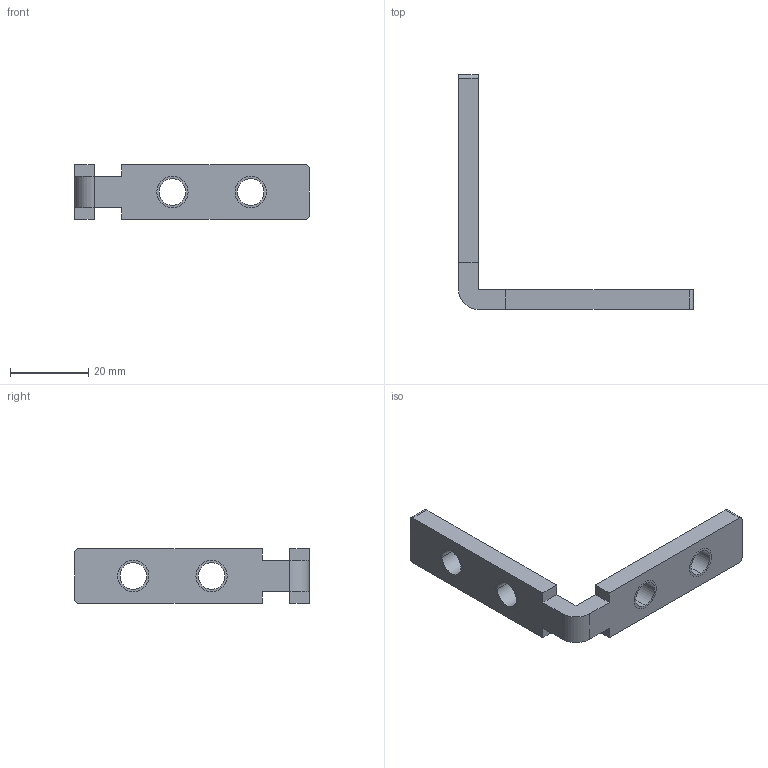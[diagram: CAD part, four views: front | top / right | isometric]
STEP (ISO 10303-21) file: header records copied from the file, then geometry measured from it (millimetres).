
FILE_DESCRIPTION (( 'STEP AP203' ), '1' );
FILE_NAME ('DIB4040.STEP', '2019-05-31T03:05:08', ( '' ), ( '' ), 'SwSTEP 2.0', 'SolidWorks 2012', '' );
FILE_SCHEMA (( 'CONFIG_CONTROL_DESIGN' ));
Length unit declared in the file: millimetre
Products named in the file (1): DIB4040
Bounding box: 60 x 60 x 14 mm (x, y, z)
Surface area: 4943.2 mm2 (no closed solid volume)
Topology: 0 solids, 5 shells, 45 faces, 129 edges, 86 vertices
Faces by surface type: cylinder 29, plane 16
Entity records: 1574 total; most frequent: DIRECTION 279, CARTESIAN_POINT 261, ORIENTED_EDGE 234, EDGE_CURVE 129, AXIS2_PLACEMENT_3D 104, VERTEX_POINT 86, LINE 71, VECTOR 71
